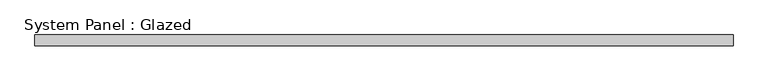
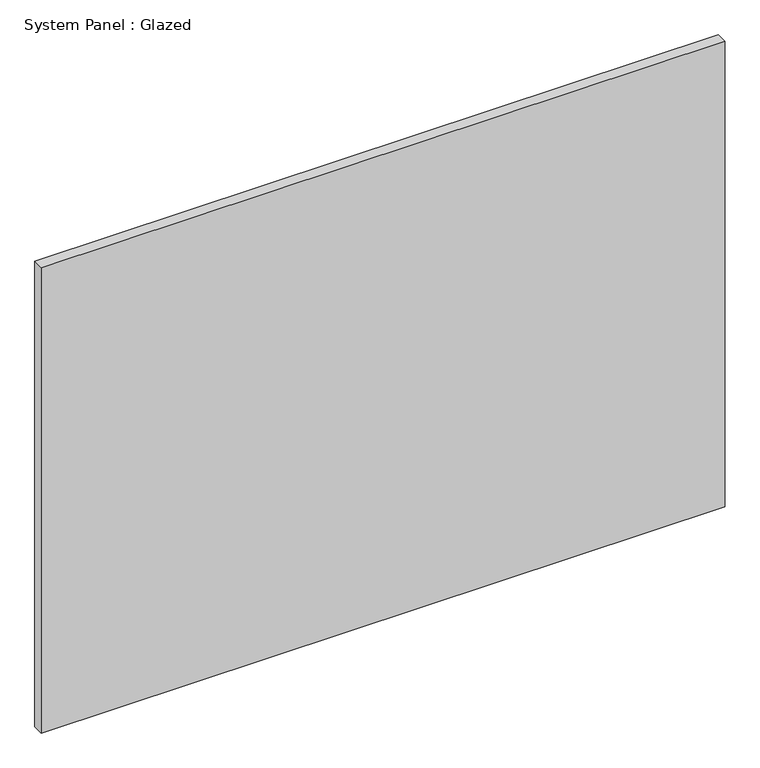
"""IFC4 building model written with IfcOpenShell, lengths in millimetres: plate geometry, System Panel : Glazed."""

from ifc_helpers import new_model, si_unit, origin, origin_with_axes, place, context, project, spatial, polyline, outline, extrude, source, transform, mapped, element, save


def system_panel_glazed_f6fca0b1(model_context):
    return source(origin(), model_context, "Body", "SweptSolid", [
        extrude(outline(polyline([(803.275, -44.45), (-803.275, -44.45), (-803.275, -19.05), (803.275, -19.05), (803.275, -44.45)])), origin_with_axes(), (0.0, 0.0, 1.0), 1155.7),
    ])


if __name__ == "__main__":
    model = new_model("IFC4")
    model_context = context("Model", 3, world=origin())
    ifc_project = project(units=[si_unit("LENGTHUNIT", "METRE", prefix="MILLI")], contexts=[model_context])
    site = spatial("IfcSite", under=ifc_project)
    building = spatial("IfcBuilding", under=site)
    placement = place(None, origin())
    system_panel_glazed_shape = system_panel_glazed_f6fca0b1(model_context)
    element("IfcPlate", 1, ObjectType="System Panel : Glazed", at=placement, inside=building, context=model_context, shape_type="MappedRepresentation", body=[
        mapped(system_panel_glazed_shape, transform((0.0, 0.0, 0.0), x_axis=(1.0, 0.0, 0.0), y_axis=(0.0, 1.0, 0.0), z_axis=(0.0, 0.0, 1.0))),
    ])
    save(model, "model.ifc")
